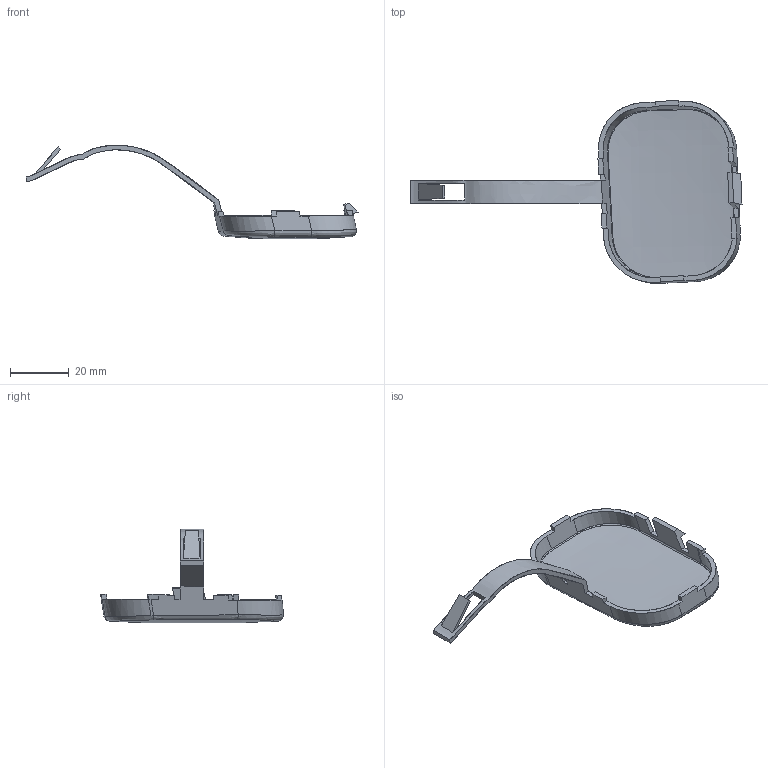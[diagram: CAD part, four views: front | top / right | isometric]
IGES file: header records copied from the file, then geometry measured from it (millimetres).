
Start section: This file is generated by Rapidform XOR/Redesign(INUS Technology, Inc.).
Global section: file name: plastik-kapak.igs; native system: Spatial Corp.; preprocessor: 3D InterOp GENERIC/IGES 3.0; author: Noname; organization: Noname; date: 20130914.194056; units: millimetre
Bounding box: 112.88 x 62.17 x 31.92 mm (x, y, z)
Surface area: 8976.3 mm2 (no closed solid volume)
Topology: 0 solids, 0 shells, 86 faces, 486 edges, 486 vertices
Faces by surface type: bspline 86
